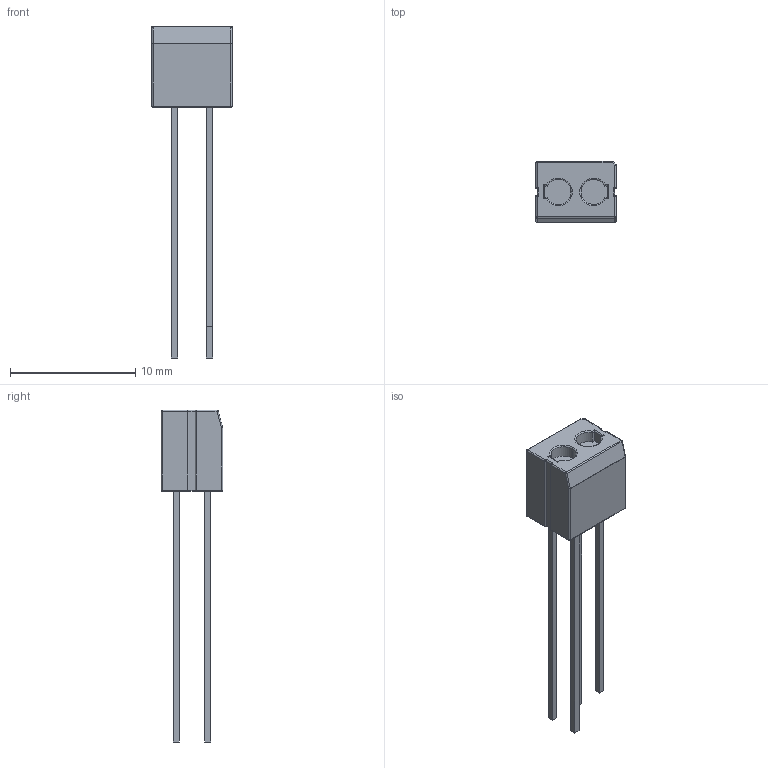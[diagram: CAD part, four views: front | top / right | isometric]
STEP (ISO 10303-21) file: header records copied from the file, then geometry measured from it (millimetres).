
FILE_DESCRIPTION (( 'STEP AP214' ), '1' );
FILE_NAME ('RPR-220.STEP', '2023-07-04T06:31:48', ( '' ), ( '' ), 'SwSTEP 2.0', 'SolidWorks 2022', '' );
FILE_SCHEMA (( 'AUTOMOTIVE_DESIGN' ));
Length unit declared in the file: millimetre
Products named in the file (1): RPR-220
Bounding box: 6.4 x 4.9 x 26.5 mm (x, y, z)
Volume: 213.7 mm3; surface area: 374.9 mm2
Topology: 5 solids, 5 shells, 118 faces, 260 edges, 135 vertices
Faces by surface type: plane 48, cylinder 47, sphere 20, torus 3
Entity records: 4420 total; most frequent: CARTESIAN_POINT 603, DIRECTION 533, ORIENTED_EDGE 482, EDGE_CURVE 241, AXIS2_PLACEMENT_3D 189, LINE 155, VECTOR 155, VERTEX_POINT 135
